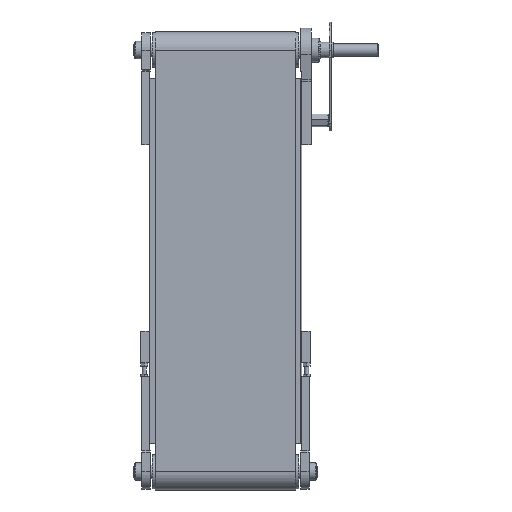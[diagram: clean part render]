
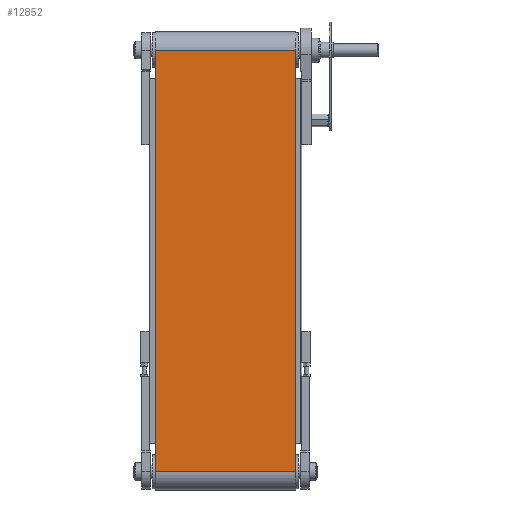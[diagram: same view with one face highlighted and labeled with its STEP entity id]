
A CAD part, front view. The second image highlights one B-rep face of the part: STEP entity #12852.
In plain terms, the highlighted planar face has unit normal (0, -1, 0).
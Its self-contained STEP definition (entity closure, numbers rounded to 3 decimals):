
#129 = DIRECTION ( 'NONE',  ( -1., 0., 0. ) ) ;
#560 = ORIENTED_EDGE ( 'NONE', *, *, #710, .T. ) ;
#708 = VERTEX_POINT ( 'NONE', #8632 ) ;
#710 = EDGE_CURVE ( 'NONE', #4640, #797, #8657, .T. ) ;
#797 = VERTEX_POINT ( 'NONE', #5562 ) ;
#1211 = CARTESIAN_POINT ( 'NONE',  ( 600., -26., -100. ) ) ;
#2075 = EDGE_CURVE ( 'NONE', #708, #3149, #13426, .T. ) ;
#3149 = VERTEX_POINT ( 'NONE', #8032 ) ;
#3439 = DIRECTION ( 'NONE',  ( 0., 0., -1. ) ) ;
#3753 = VECTOR ( 'NONE', #16164, 1000. ) ;
#4459 = LINE ( 'NONE', #8808, #3753 ) ;
#4640 = VERTEX_POINT ( 'NONE', #8258 ) ;
#5152 = FACE_OUTER_BOUND ( 'NONE', #9524, .T. ) ;
#5562 = CARTESIAN_POINT ( 'NONE',  ( 600., -26., -100. ) ) ;
#6657 = ORIENTED_EDGE ( 'NONE', *, *, #9714, .F. ) ;
#6768 = VECTOR ( 'NONE', #10114, 1000. ) ;
#6800 = ORIENTED_EDGE ( 'NONE', *, *, #2075, .F. ) ;
#7249 = DIRECTION ( 'NONE',  ( 1., 0., 0. ) ) ;
#8032 = CARTESIAN_POINT ( 'NONE',  ( 600., -26., 100. ) ) ;
#8195 = VECTOR ( 'NONE', #7249, 1000. ) ;
#8258 = CARTESIAN_POINT ( 'NONE',  ( 0., -26., -100. ) ) ;
#8632 = CARTESIAN_POINT ( 'NONE',  ( 0., -26., 100. ) ) ;
#8657 = LINE ( 'NONE', #1211, #8195 ) ;
#8746 = VECTOR ( 'NONE', #3439, 1000. ) ;
#8808 = CARTESIAN_POINT ( 'NONE',  ( 600., -26., 100. ) ) ;
#8956 = DIRECTION ( 'NONE',  ( 0., 1., 0. ) ) ;
#9524 = EDGE_LOOP ( 'NONE', ( #560, #6657, #6800, #13249 ) ) ;
#9714 = EDGE_CURVE ( 'NONE', #3149, #797, #4459, .T. ) ;
#10114 = DIRECTION ( 'NONE',  ( 1., 0., 0. ) ) ;
#10343 = LINE ( 'NONE', #15372, #8746 ) ;
#10430 = PLANE ( 'NONE',  #15723 ) ;
#12852 = ADVANCED_FACE ( 'NONE', ( #5152 ), #10430, .F. ) ;
#13249 = ORIENTED_EDGE ( 'NONE', *, *, #18857, .T. ) ;
#13426 = LINE ( 'NONE', #15862, #6768 ) ;
#14702 = CARTESIAN_POINT ( 'NONE',  ( 600., -26., 100. ) ) ;
#15372 = CARTESIAN_POINT ( 'NONE',  ( 0., -26., 100. ) ) ;
#15723 = AXIS2_PLACEMENT_3D ( 'NONE', #14702, #8956, #129 ) ;
#15862 = CARTESIAN_POINT ( 'NONE',  ( 600., -26., 100. ) ) ;
#16164 = DIRECTION ( 'NONE',  ( 0., 0., -1. ) ) ;
#18857 = EDGE_CURVE ( 'NONE', #708, #4640, #10343, .T. ) ;
